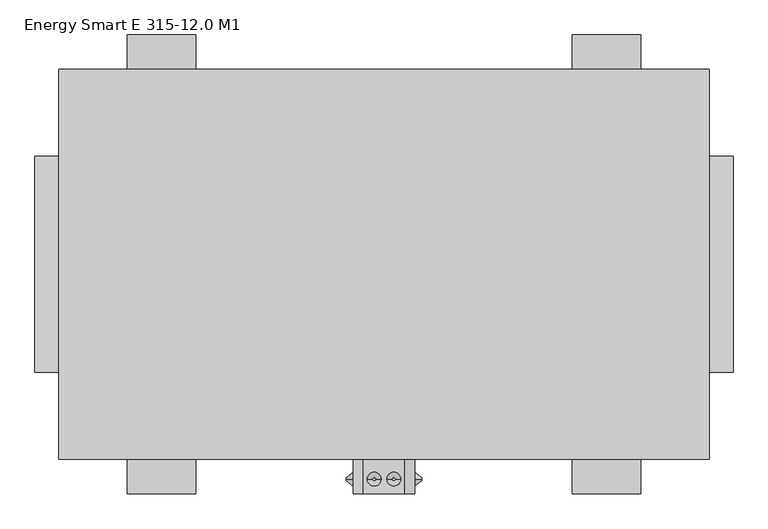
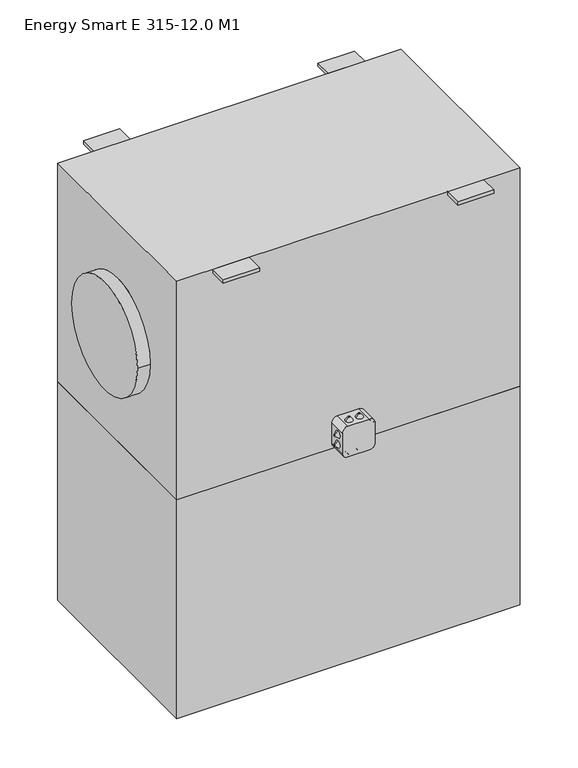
"""IFC4 building model written with IfcOpenShell, lengths in millimetres: proxy geometry, ADSK_КПВУ_ENERGY SMART E_круглая : Energy Smart E 315-12.0 M1."""

from ifc_helpers import new_model, si_unit, point, frame, frame_2d, origin, place, context, project, spatial, polyline, circle_curve, trimmed, segment, composite_curve, outline, extrude, source, transform, mapped, element, save
from ifc_brep_helpers import plane_surface, cylinder_surface, revolved_surface, advanced_brep


def energy_smart_e_315_12_0_m1_9dba1331(model_context):
    return source(origin(), model_context, "Body", "SolidModel", [
        advanced_brep(
        [(211.0, -313.9311792, -291.7092609), (211.0, -313.9311792, -287.7092609), (221.0, -313.9311792, -299.7092609), (221.0, -313.9311792, -279.7092609)],
        [
            (0, 1, circle_curve(frame((211.0, -313.9311792, -289.7092609), z_axis=(-1.0, 0.0, 0.0), x_axis=(0.0, 0.0, -1.0)), 2.0)),
            (1, 0, circle_curve(frame((211.0, -313.9311792, -289.7092609), z_axis=(-1.0, 0.0, 0.0), x_axis=(0.0, 0.0, 1.0)), 2.0)),
            (2, 3, circle_curve(frame((221.0, -313.9311792, -289.7092609), z_axis=(1.0, 0.0, 0.0), x_axis=(0.0, 0.0, 1.0)), 10.0)),
            (3, 2, circle_curve(frame((221.0, -313.9311792, -289.7092609), z_axis=(1.0, 0.0, 0.0), x_axis=(0.0, 0.0, -1.0)), 10.0)),
            (2, 0),
            (1, 3),
        ],
        [
            plane_surface(frame((211.0, -313.9311792, -289.7092609), z_axis=(-1.0, 0.0, 0.0), x_axis=(0.0, -1.0, 0.0))),
            plane_surface(frame((221.0, -313.9311792, -289.7092609), z_axis=(1.0, 0.0, 0.0), x_axis=(0.0, -1.0, 0.0))),
            revolved_surface(polyline([(211.0, -313.9311792, -287.7092609), (221.0, -313.9311792, -279.7092609)]), (208.5, -313.9311792, -289.7092609), (1.0, 0.0, 0.0)),
            revolved_surface(polyline([(211.0, -313.9311792, -291.7092609), (221.0, -313.9311792, -299.7092609)]), (208.5, -313.9311792, -289.7092609), (1.0, 0.0, 0.0)),
        ],
        [
            (0, [[1, 2]]),
            (1, [[3, 4]]),
            (2, [[-3, 5, -2, 6]]),
            (3, [[-4, -6, -1, -5]]),
        ],
    ),
        advanced_brep(
        [(211.0, -313.9311792, -259.0531164), (211.0, -313.9311792, -263.0531164), (221.0, -313.9311792, -251.0531164), (221.0, -313.9311792, -271.0531164)],
        [
            (0, 1, circle_curve(frame((211.0, -313.9311792, -261.0531164), z_axis=(-1.0, 0.0, 0.0), x_axis=(0.0, 0.0, 1.0)), 2.0)),
            (1, 0, circle_curve(frame((211.0, -313.9311792, -261.0531164), z_axis=(-1.0, 0.0, 0.0), x_axis=(0.0, 0.0, -1.0)), 2.0)),
            (2, 3, circle_curve(frame((221.0, -313.9311792, -261.0531164), z_axis=(1.0, 0.0, 0.0), x_axis=(0.0, 0.0, -1.0)), 10.0)),
            (3, 2, circle_curve(frame((221.0, -313.9311792, -261.0531164), z_axis=(1.0, 0.0, 0.0), x_axis=(0.0, 0.0, 1.0)), 10.0)),
            (3, 1),
            (0, 2),
        ],
        [
            plane_surface(frame((211.0, -313.9311792, -261.0531164), z_axis=(-1.0, 0.0, 0.0), x_axis=(0.0, 1.0, 0.0))),
            plane_surface(frame((221.0, -313.9311792, -261.0531164), z_axis=(1.0, 0.0, 0.0), x_axis=(0.0, 1.0, 0.0))),
            revolved_surface(polyline([(211.0, -313.9311792, -259.0531164), (221.0, -313.9311792, -251.0531164)]), (208.5, -313.9311792, -261.0531164), (1.0, 0.0, 0.0)),
            revolved_surface(polyline([(211.0, -313.9311792, -263.0531164), (221.0, -313.9311792, -271.0531164)]), (208.5, -313.9311792, -261.0531164), (1.0, 0.0, 0.0)),
        ],
        [
            (0, [[1, 2]]),
            (1, [[3, 4]]),
            (2, [[-4, 5, -1, 6]]),
            (3, [[-3, -6, -2, -5]]),
        ],
    ),
        advanced_brep(
        [(321.0, -313.9311792, -291.7092609), (321.0, -313.9311792, -287.7092609), (311.0, -313.9311792, -299.7092609), (311.0, -313.9311792, -279.7092609)],
        [
            (0, 1, circle_curve(frame((321.0, -313.9311792, -289.7092609), z_axis=(1.0, 0.0, 0.0), x_axis=(0.0, 0.0, -1.0)), 2.0)),
            (1, 0, circle_curve(frame((321.0, -313.9311792, -289.7092609), z_axis=(1.0, 0.0, 0.0), x_axis=(0.0, 0.0, 1.0)), 2.0)),
            (2, 3, circle_curve(frame((311.0, -313.9311792, -289.7092609), z_axis=(-1.0, 0.0, 0.0), x_axis=(0.0, 0.0, 1.0)), 10.0)),
            (3, 2, circle_curve(frame((311.0, -313.9311792, -289.7092609), z_axis=(-1.0, 0.0, 0.0), x_axis=(0.0, 0.0, -1.0)), 10.0)),
            (3, 1),
            (0, 2),
        ],
        [
            plane_surface(frame((321.0, -313.9311792, -289.7092609), z_axis=(1.0, 0.0, 0.0), x_axis=(0.0, 1.0, 0.0))),
            plane_surface(frame((311.0, -313.9311792, -289.7092609), z_axis=(-1.0, 0.0, 0.0), x_axis=(0.0, 1.0, 0.0))),
            revolved_surface(polyline([(321.0, -313.9311792, -291.7092609), (311.0, -313.9311792, -299.7092609)]), (323.5, -313.9311792, -289.7092609), (-1.0, 0.0, 0.0)),
            revolved_surface(polyline([(321.0, -313.9311792, -287.7092609), (311.0, -313.9311792, -279.7092609)]), (323.5, -313.9311792, -289.7092609), (-1.0, 0.0, 0.0)),
        ],
        [
            (0, [[1, 2]]),
            (1, [[3, 4]]),
            (2, [[-4, 5, -1, 6]]),
            (3, [[-3, -6, -2, -5]]),
        ],
    ),
        advanced_brep(
        [(321.0, -313.9311792, -259.0531164), (321.0, -313.9311792, -263.0531164), (311.0, -313.9311792, -251.0531164), (311.0, -313.9311792, -271.0531164)],
        [
            (0, 1, circle_curve(frame((321.0, -313.9311792, -261.0531164), z_axis=(1.0, 0.0, 0.0), x_axis=(0.0, 0.0, 1.0)), 2.0)),
            (1, 0, circle_curve(frame((321.0, -313.9311792, -261.0531164), z_axis=(1.0, 0.0, 0.0), x_axis=(0.0, 0.0, -1.0)), 2.0)),
            (2, 3, circle_curve(frame((311.0, -313.9311792, -261.0531164), z_axis=(-1.0, 0.0, 0.0), x_axis=(0.0, 0.0, -1.0)), 10.0)),
            (3, 2, circle_curve(frame((311.0, -313.9311792, -261.0531164), z_axis=(-1.0, 0.0, 0.0), x_axis=(0.0, 0.0, 1.0)), 10.0)),
            (2, 0),
            (1, 3),
        ],
        [
            plane_surface(frame((321.0, -313.9311792, -261.0531164), z_axis=(1.0, 0.0, 0.0), x_axis=(0.0, -1.0, 0.0))),
            plane_surface(frame((311.0, -313.9311792, -261.0531164), z_axis=(-1.0, 0.0, 0.0), x_axis=(0.0, -1.0, 0.0))),
            revolved_surface(polyline([(321.0, -313.9311792, -263.0531164), (311.0, -313.9311792, -271.0531164)]), (323.5, -313.9311792, -261.0531164), (-1.0, 0.0, 0.0)),
            revolved_surface(polyline([(321.0, -313.9311792, -259.0531164), (311.0, -313.9311792, -251.0531164)]), (323.5, -313.9311792, -261.0531164), (-1.0, 0.0, 0.0)),
        ],
        [
            (0, [[1, 2]]),
            (1, [[3, 4]]),
            (2, [[-3, 5, -2, 6]]),
            (3, [[-4, -6, -1, -5]]),
        ],
    ),
        advanced_brep(
        [(249.6719278, -313.9311792, -330.0), (253.6719278, -313.9311792, -330.0), (241.6719278, -313.9311792, -320.0), (261.6719278, -313.9311792, -320.0)],
        [
            (0, 1, circle_curve(frame((251.6719278, -313.9311792, -330.0), z_axis=(0.0, 0.0, -1.0), x_axis=(-1.0, 0.0, 0.0)), 2.0)),
            (1, 0, circle_curve(frame((251.6719278, -313.9311792, -330.0), z_axis=(0.0, 0.0, -1.0), x_axis=(1.0, 0.0, 0.0)), 2.0)),
            (2, 3, circle_curve(frame((251.6719278, -313.9311792, -320.0), z_axis=(0.0, 0.0, 1.0), x_axis=(1.0, 0.0, 0.0)), 10.0)),
            (3, 2, circle_curve(frame((251.6719278, -313.9311792, -320.0), z_axis=(0.0, 0.0, 1.0), x_axis=(-1.0, 0.0, 0.0)), 10.0)),
            (3, 1),
            (0, 2),
        ],
        [
            plane_surface(frame((251.6719278, -313.9311792, -330.0), z_axis=(0.0, 0.0, -1.0), x_axis=(0.0, 1.0, 0.0))),
            plane_surface(frame((251.6719278, -313.9311792, -320.0), z_axis=(0.0, 0.0, 1.0), x_axis=(0.0, 1.0, 0.0))),
            revolved_surface(polyline([(249.6719278, -313.9311792, -330.0), (241.6719278, -313.9311792, -320.0)]), (251.6719278, -313.9311792, -332.5), (0.0, 0.0, 1.0)),
            revolved_surface(polyline([(253.6719278, -313.9311792, -330.0), (261.6719278, -313.9311792, -320.0)]), (251.6719278, -313.9311792, -332.5), (0.0, 0.0, 1.0)),
        ],
        [
            (0, [[1, 2]]),
            (1, [[3, 4]]),
            (2, [[-4, 5, -1, 6]]),
            (3, [[-3, -6, -2, -5]]),
        ],
    ),
        advanced_brep(
        [(282.3280722, -313.9311792, -330.0), (278.3280722, -313.9311792, -330.0), (290.3280722, -313.9311792, -320.0), (270.3280722, -313.9311792, -320.0)],
        [
            (0, 1, circle_curve(frame((280.3280722, -313.9311792, -330.0), z_axis=(0.0, 0.0, -1.0), x_axis=(1.0, 0.0, 0.0)), 2.0)),
            (1, 0, circle_curve(frame((280.3280722, -313.9311792, -330.0), z_axis=(0.0, 0.0, -1.0), x_axis=(-1.0, 0.0, 0.0)), 2.0)),
            (2, 3, circle_curve(frame((280.3280722, -313.9311792, -320.0), z_axis=(0.0, 0.0, 1.0), x_axis=(-1.0, 0.0, 0.0)), 10.0)),
            (3, 2, circle_curve(frame((280.3280722, -313.9311792, -320.0), z_axis=(0.0, 0.0, 1.0), x_axis=(1.0, 0.0, 0.0)), 10.0)),
            (2, 0),
            (1, 3),
        ],
        [
            plane_surface(frame((280.3280722, -313.9311792, -330.0), z_axis=(0.0, 0.0, -1.0), x_axis=(0.0, -1.0, 0.0))),
            plane_surface(frame((280.3280722, -313.9311792, -320.0), z_axis=(0.0, 0.0, 1.0), x_axis=(0.0, -1.0, 0.0))),
            revolved_surface(polyline([(278.3280722, -313.9311792, -330.0), (270.3280722, -313.9311792, -320.0)]), (280.3280722, -313.9311792, -332.5), (0.0, 0.0, 1.0)),
            revolved_surface(polyline([(282.3280722, -313.9311792, -330.0), (290.3280722, -313.9311792, -320.0)]), (280.3280722, -313.9311792, -332.5), (0.0, 0.0, 1.0)),
        ],
        [
            (0, [[1, 2]]),
            (1, [[3, 4]]),
            (2, [[-3, 5, -2, 6]]),
            (3, [[-4, -6, -1, -5]]),
        ],
    ),
        advanced_brep(
        [(249.6719278, -313.9311792, -220.0), (253.6719278, -313.9311792, -220.0), (241.6719278, -313.9311792, -230.0), (261.6719278, -313.9311792, -230.0)],
        [
            (0, 1, circle_curve(frame((251.6719278, -313.9311792, -220.0), z_axis=(0.0, 0.0, 1.0), x_axis=(-1.0, 0.0, 0.0)), 2.0)),
            (1, 0, circle_curve(frame((251.6719278, -313.9311792, -220.0), z_axis=(0.0, 0.0, 1.0), x_axis=(1.0, 0.0, 0.0)), 2.0)),
            (2, 3, circle_curve(frame((251.6719278, -313.9311792, -230.0), z_axis=(0.0, 0.0, -1.0), x_axis=(1.0, 0.0, 0.0)), 10.0)),
            (3, 2, circle_curve(frame((251.6719278, -313.9311792, -230.0), z_axis=(0.0, 0.0, -1.0), x_axis=(-1.0, 0.0, 0.0)), 10.0)),
            (2, 0),
            (1, 3),
        ],
        [
            plane_surface(frame((251.6719278, -313.9311792, -220.0), z_axis=(0.0, 0.0, 1.0), x_axis=(0.0, -1.0, 0.0))),
            plane_surface(frame((251.6719278, -313.9311792, -230.0), z_axis=(0.0, 0.0, -1.0), x_axis=(0.0, -1.0, 0.0))),
            revolved_surface(polyline([(253.6719278, -313.9311792, -220.0), (261.6719278, -313.9311792, -230.0)]), (251.6719278, -313.9311792, -217.5), (0.0, 0.0, -1.0)),
            revolved_surface(polyline([(249.6719278, -313.9311792, -220.0), (241.6719278, -313.9311792, -230.0)]), (251.6719278, -313.9311792, -217.5), (0.0, 0.0, -1.0)),
        ],
        [
            (0, [[1, 2]]),
            (1, [[3, 4]]),
            (2, [[-3, 5, -2, 6]]),
            (3, [[-4, -6, -1, -5]]),
        ],
    ),
        advanced_brep(
        [(282.3280722, -313.9311792, -220.0), (278.3280722, -313.9311792, -220.0), (290.3280722, -313.9311792, -230.0), (270.3280722, -313.9311792, -230.0)],
        [
            (0, 1, circle_curve(frame((280.3280722, -313.9311792, -220.0), z_axis=(0.0, 0.0, 1.0), x_axis=(1.0, 0.0, 0.0)), 2.0)),
            (1, 0, circle_curve(frame((280.3280722, -313.9311792, -220.0), z_axis=(0.0, 0.0, 1.0), x_axis=(-1.0, 0.0, 0.0)), 2.0)),
            (2, 3, circle_curve(frame((280.3280722, -313.9311792, -230.0), z_axis=(0.0, 0.0, -1.0), x_axis=(-1.0, 0.0, 0.0)), 10.0)),
            (3, 2, circle_curve(frame((280.3280722, -313.9311792, -230.0), z_axis=(0.0, 0.0, -1.0), x_axis=(1.0, 0.0, 0.0)), 10.0)),
            (3, 1),
            (0, 2),
        ],
        [
            plane_surface(frame((280.3280722, -313.9311792, -220.0), z_axis=(0.0, 0.0, 1.0), x_axis=(0.0, 1.0, 0.0))),
            plane_surface(frame((280.3280722, -313.9311792, -230.0), z_axis=(0.0, 0.0, -1.0), x_axis=(0.0, 1.0, 0.0))),
            revolved_surface(polyline([(282.3280722, -313.9311792, -220.0), (290.3280722, -313.9311792, -230.0)]), (280.3280722, -313.9311792, -217.5), (0.0, 0.0, -1.0)),
            revolved_surface(polyline([(278.3280722, -313.9311792, -220.0), (270.3280722, -313.9311792, -230.0)]), (280.3280722, -313.9311792, -217.5), (0.0, 0.0, -1.0)),
        ],
        [
            (0, [[1, 2]]),
            (1, [[3, 4]]),
            (2, [[-4, 5, -1, 6]]),
            (3, [[-3, -6, -2, -5]]),
        ],
    ),
        extrude(outline(composite_curve([segment(polyline([(-320.0, 236.0), (-320.0, 296.0)]), True, "CONTINUOUS"), segment(trimmed(circle_curve(frame_2d((-305.0, 296.0)), 15.0), [point((-320.0, 296.0))], [point((-305.0, 311.0))], False, "CARTESIAN"), True, "CONTINUOUS"), segment(polyline([(-305.0, 311.0), (-245.0, 311.0)]), True, "CONTINUOUS"), segment(trimmed(circle_curve(frame_2d((-245.0, 296.0)), 15.0), [point((-245.0, 311.0))], [point((-230.0, 296.0))], False, "CARTESIAN"), True, "CONTINUOUS"), segment(polyline([(-230.0, 296.0), (-230.0, 236.0)]), True, "CONTINUOUS"), segment(trimmed(circle_curve(frame_2d((-245.0, 236.0)), 15.0), [point((-230.0, 236.0))], [point((-245.0, 221.0))], False, "CARTESIAN"), True, "CONTINUOUS"), segment(polyline([(-245.0, 221.0), (-305.0, 221.0)]), True, "CONTINUOUS"), segment(trimmed(circle_curve(frame_2d((-305.0, 236.0)), 15.0), [point((-305.0, 221.0))], [point((-320.0, 236.0))], False, "CARTESIAN"), True, "CONTINUOUS")], self_intersect=False)), frame((0.0, -335.0, 0.0), z_axis=(0.0, 1.0, 0.0), x_axis=(0.0, 0.0, 1.0)), (0.0, 0.0, 1.0), 50.0),
        advanced_brep(
        [(741.0, -285.0, 320.0), (741.0, -285.0, -320.0), (741.0, 285.0, -320.0), (741.0, 285.0, 320.0), (741.0, 157.5, 0.0), (741.0, -157.5, 0.0), (-209.0, -285.0, 320.0), (-209.0, 285.0, 320.0), (-209.0, 285.0, -320.0), (-209.0, -285.0, -320.0), (-209.0, 157.5, 0.0), (-209.0, -157.5, 0.0), (-244.0, -157.5, 0.0), (-244.0, 157.5, 0.0), (776.0, -157.5, 0.0), (776.0, 157.5, 0.0)],
        [
            (0, 1),
            (1, 2),
            (2, 3),
            (3, 0),
            (4, 5, circle_curve(frame((741.0, 0.0, 0.0), z_axis=(-1.0, 0.0, 0.0), x_axis=(0.0, 1.0, 0.0)), 157.5)),
            (5, 4, circle_curve(frame((741.0, 0.0, 0.0), z_axis=(-1.0, 0.0, 0.0), x_axis=(0.0, 1.0, 0.0)), 157.5)),
            (6, 7),
            (7, 8),
            (8, 9),
            (9, 6),
            (10, 11, circle_curve(frame((-209.0, 0.0, 0.0), z_axis=(1.0, 0.0, 0.0), x_axis=(0.0, 1.0, 0.0)), 157.5)),
            (11, 10, circle_curve(frame((-209.0, 0.0, 0.0), z_axis=(1.0, 0.0, 0.0), x_axis=(0.0, 1.0, 0.0)), 157.5)),
            (12, 13, circle_curve(frame((-244.0, 0.0, 0.0), z_axis=(-1.0, 0.0, 0.0), x_axis=(0.0, 1.0, 0.0)), 157.5)),
            (13, 12, circle_curve(frame((-244.0, 0.0, 0.0), z_axis=(-1.0, 0.0, 0.0), x_axis=(0.0, 1.0, 0.0)), 157.5)),
            (0, 6),
            (9, 1),
            (8, 2),
            (7, 3),
            (12, 11),
            (10, 13),
            (14, 15, circle_curve(frame((776.0, 0.0, 0.0), z_axis=(1.0, 0.0, 0.0), x_axis=(0.0, 1.0, 0.0)), 157.5)),
            (15, 14, circle_curve(frame((776.0, 0.0, 0.0), z_axis=(1.0, 0.0, 0.0), x_axis=(0.0, 1.0, 0.0)), 157.5)),
            (14, 5),
            (4, 15),
        ],
        [
            plane_surface(frame((741.0, -285.0, 320.0), z_axis=(1.0, 0.0, 0.0), x_axis=(0.0, 0.0, -1.0))),
            plane_surface(frame((-209.0, -285.0, 320.0), z_axis=(-1.0, 0.0, 0.0), x_axis=(0.0, 0.0, 1.0))),
            plane_surface(frame((-244.0, 157.5, 0.0), z_axis=(-1.0, 0.0, 0.0), x_axis=(0.0, 0.0, -1.0))),
            plane_surface(frame((741.0, -285.0, 320.0), z_axis=(0.0, -1.0, 0.0), x_axis=(-1.0, 0.0, 0.0))),
            plane_surface(frame((741.0, -285.0, -320.0), z_axis=(0.0, 0.0, -1.0), x_axis=(-1.0, 0.0, 0.0))),
            plane_surface(frame((741.0, 285.0, -320.0), z_axis=(0.0, 1.0, 0.0), x_axis=(-1.0, 0.0, 0.0))),
            plane_surface(frame((741.0, 285.0, 320.0), z_axis=(0.0, 0.0, 1.0), x_axis=(-1.0, 0.0, 0.0))),
            cylinder_surface(frame((-244.0, 0.0, 0.0), z_axis=(1.0, 0.0, 0.0), x_axis=(0.0, 1.0, 0.0)), 157.5),
            plane_surface(frame((776.0, 157.5, 0.0), z_axis=(1.0, 0.0, 0.0), x_axis=(0.0, 0.0, 1.0))),
            cylinder_surface(frame((741.0, 0.0, 0.0), z_axis=(1.0, 0.0, 0.0), x_axis=(0.0, 1.0, 0.0)), 157.5),
        ],
        [
            (0, [[1, 2, 3, 4], [5, 6]]),
            (1, [[7, 8, 9, 10], [11, 12]]),
            (2, [[13, 14]]),
            (3, [[-1, 15, -10, 16]]),
            (4, [[-2, -16, -9, 17]]),
            (5, [[-3, -17, -8, 18]]),
            (6, [[-4, -18, -7, -15]]),
            (7, [[-13, 19, -11, 20]]),
            (7, [[-14, -20, -12, -19]]),
            (8, [[21, 22]]),
            (9, [[-21, 23, -5, 24]]),
            (9, [[-22, -24, -6, -23]]),
        ],
    ),
        extrude(outline(polyline([(-9.0, 335.0), (-9.0, 285.0), (-109.0, 285.0), (-109.0, 335.0), (-9.0, 335.0)])), frame((0.0, 0.0, 310.0), z_axis=(0.0, 0.0, 1.0), x_axis=(1.0, 0.0, 0.0)), (0.0, 0.0, 1.0), 10.0),
        extrude(outline(polyline([(541.0, 335.0), (641.0, 335.0), (641.0, 285.0), (541.0, 285.0), (541.0, 335.0)])), frame((0.0, 0.0, 310.0), z_axis=(0.0, 0.0, 1.0), x_axis=(1.0, 0.0, 0.0)), (0.0, 0.0, 1.0), 10.0),
        extrude(outline(polyline([(-9.0, -335.0), (-109.0, -335.0), (-109.0, -285.0), (-9.0, -285.0), (-9.0, -335.0)])), frame((0.0, 0.0, 310.0), z_axis=(0.0, 0.0, 1.0), x_axis=(1.0, 0.0, 0.0)), (0.0, 0.0, 1.0), 10.0),
        extrude(outline(polyline([(541.0, -335.0), (541.0, -285.0), (641.0, -285.0), (641.0, -335.0), (541.0, -335.0)])), frame((0.0, 0.0, 310.0), z_axis=(0.0, 0.0, 1.0), x_axis=(1.0, 0.0, 0.0)), (0.0, 0.0, 1.0), 10.0),
        extrude(outline(polyline([(741.0, 285.0), (741.0, -285.0), (-209.0, -285.0), (-209.0, 285.0), (741.0, 285.0)])), frame((0.0, 0.0, -960.0), z_axis=(0.0, 0.0, 1.0), x_axis=(1.0, 0.0, 0.0)), (0.0, 0.0, 1.0), 640.0),
    ])


if __name__ == "__main__":
    model = new_model("IFC4")
    model_context = context("Model", 3, world=origin())
    ifc_project = project(units=[si_unit("LENGTHUNIT", "METRE", prefix="MILLI")], contexts=[model_context])
    site = spatial("IfcSite", under=ifc_project)
    building = spatial("IfcBuilding", under=site)
    placement = place(None, origin())
    energy_smart_e_315_12_0_m1_shape = energy_smart_e_315_12_0_m1_9dba1331(model_context)
    element("IfcBuildingElementProxy", 1, Name="ADSK_КПВУ_ENERGY SMART E_круглая : Energy Smart E 315-12.0 M1", ObjectType="ADSK_КПВУ_ENERGY SMART E_круглая : Energy Smart E 315-12.0 M1", at=placement, inside=building, context=model_context, shape_type="MappedRepresentation", body=[
        mapped(energy_smart_e_315_12_0_m1_shape, transform((0.0, 0.0, 0.0), x_axis=(1.0, 0.0, 0.0), y_axis=(0.0, 1.0, 0.0), z_axis=(0.0, 0.0, 1.0))),
    ])
    save(model, "model.ifc")
